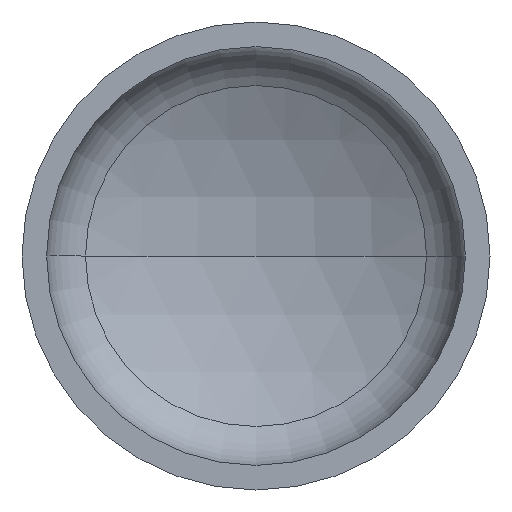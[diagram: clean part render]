
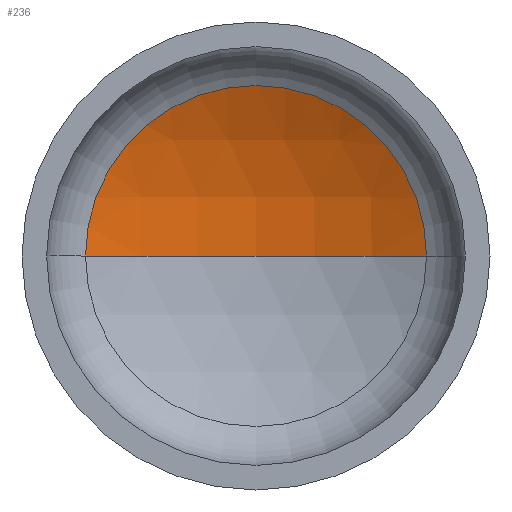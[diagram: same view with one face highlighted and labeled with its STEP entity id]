
A CAD part, front view. The second image highlights one B-rep face of the part: STEP entity #236.
In plain terms, the highlighted spherical face has radius 1520 mm.
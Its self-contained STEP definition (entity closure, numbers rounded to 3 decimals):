
#1 = ORIENTED_EDGE ( 'NONE', *, *, #297, .T. ) ;
#4 = CARTESIAN_POINT ( 'NONE',  ( 0., 524.874, 0. ) ) ;
#5 = AXIS2_PLACEMENT_3D ( 'NONE', #100, #101, #388 ) ;
#13 = AXIS2_PLACEMENT_3D ( 'NONE', #118, #53, #57 ) ;
#16 = AXIS2_PLACEMENT_3D ( 'NONE', #195, #244, #238 ) ;
#20 = EDGE_LOOP ( 'NONE', ( #97, #1, #167 ) ) ;
#53 = DIRECTION ( 'NONE',  ( 0., 0., -1. ) ) ;
#57 = DIRECTION ( 'NONE',  ( -1., 0., 0. ) ) ;
#64 = CIRCLE ( 'NONE', #5, 1520. ) ;
#75 = VERTEX_POINT ( 'NONE', #274 ) ;
#97 = ORIENTED_EDGE ( 'NONE', *, *, #302, .F. ) ;
#100 = CARTESIAN_POINT ( 'NONE',  ( 0., -995.126, 0. ) ) ;
#101 = DIRECTION ( 'NONE',  ( 0., 0., 1. ) ) ;
#102 = SPHERICAL_SURFACE ( 'NONE', #16, 1520. ) ;
#111 = VERTEX_POINT ( 'NONE', #4 ) ;
#118 = CARTESIAN_POINT ( 'NONE',  ( 0., -995.126, 0. ) ) ;
#129 = DIRECTION ( 'NONE',  ( 0., -1., 0. ) ) ;
#164 = CARTESIAN_POINT ( 'NONE',  ( 692.033, 358.2, 0. ) ) ;
#167 = ORIENTED_EDGE ( 'NONE', *, *, #327, .T. ) ;
#195 = CARTESIAN_POINT ( 'NONE',  ( 0., -995.126, 0. ) ) ;
#198 = VERTEX_POINT ( 'NONE', #164 ) ;
#236 = ADVANCED_FACE ( 'NONE', ( #343 ), #102, .F. ) ;
#238 = DIRECTION ( 'NONE',  ( -1., 0., 0. ) ) ;
#244 = DIRECTION ( 'NONE',  ( 0., 0., -1. ) ) ;
#261 = CIRCLE ( 'NONE', #13, 1520. ) ;
#274 = CARTESIAN_POINT ( 'NONE',  ( -692.033, 358.2, 0. ) ) ;
#297 = EDGE_CURVE ( 'NONE', #111, #198, #261, .T. ) ;
#302 = EDGE_CURVE ( 'NONE', #111, #75, #64, .T. ) ;
#312 = CIRCLE ( 'NONE', #395, 692.033 ) ;
#327 = EDGE_CURVE ( 'NONE', #198, #75, #312, .T. ) ;
#334 = CARTESIAN_POINT ( 'NONE',  ( 0., 358.2, 0. ) ) ;
#338 = DIRECTION ( 'NONE',  ( 1., 0., 0. ) ) ;
#343 = FACE_OUTER_BOUND ( 'NONE', #20, .T. ) ;
#388 = DIRECTION ( 'NONE',  ( 1., 0., 0. ) ) ;
#395 = AXIS2_PLACEMENT_3D ( 'NONE', #334, #129, #338 ) ;
